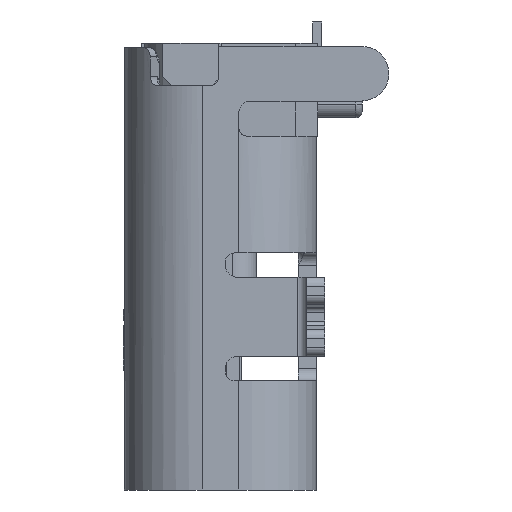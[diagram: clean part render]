
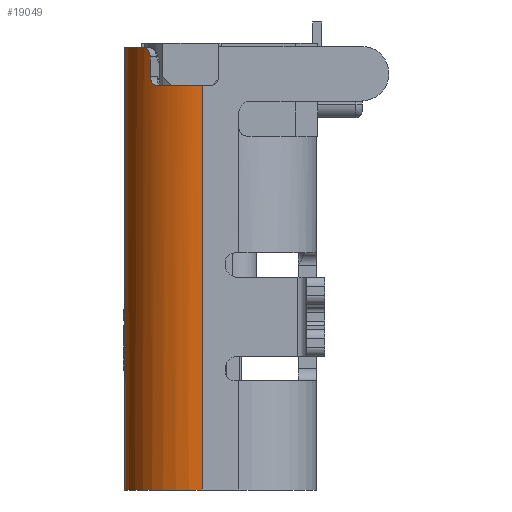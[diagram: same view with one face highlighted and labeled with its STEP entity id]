
A CAD part, left-side view. The second image highlights one B-rep face of the part: STEP entity #19049.
In plain terms, the highlighted cylindrical face has radius 1.28 mm (diameter 2.56 mm), a partial arc.
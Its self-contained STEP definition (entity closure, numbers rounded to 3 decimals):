
#4327=CARTESIAN_POINT('',(-3.19,0.295,-10.908));
#4328=DIRECTION('',(0.,0.,1.));
#4329=DIRECTION('',(0.,1.,0.));
#4330=AXIS2_PLACEMENT_3D('',#4327,#4328,#4329);
#4389=DIRECTION('',(0.,0.,-1.));
#4390=VECTOR('',#4389,7.275);
#4391=CARTESIAN_POINT('',(-3.19,1.575,
-3.633));
#4392=LINE('',#4391,#4390);
#4769=CARTESIAN_POINT('',(-3.19,0.295,-3.633));
#4770=DIRECTION('',(0.,0.,-1.));
#4771=DIRECTION('',(-0.657,0.754,0.));
#4772=AXIS2_PLACEMENT_3D('',#4769,#4770,#4771);
#4917=CARTESIAN_POINT('',(-4.031,1.26,
-3.633));
#4918=CARTESIAN_POINT('',(-4.045,1.248,
-3.633));
#4919=CARTESIAN_POINT('',(-4.07,1.224,
-3.639));
#4920=CARTESIAN_POINT('',(-4.101,1.195,
-3.66));
#4921=CARTESIAN_POINT('',(-4.125,1.169,
-3.694));
#4922=CARTESIAN_POINT('',(-4.14,1.153,
-3.738));
#4923=CARTESIAN_POINT('',(-4.143,1.15,
-3.767));
#4924=CARTESIAN_POINT('',(-4.143,1.15,
-3.783));
#4926=DIRECTION('',(0.,0.,-1.));
#4927=VECTOR('',#4926,0.325);
#4928=CARTESIAN_POINT('',(-4.143,1.15,
-3.783));
#4929=LINE('',#4928,#4927);
#4930=CARTESIAN_POINT('',(-4.143,1.15,
-4.108));
#4931=CARTESIAN_POINT('',(-4.143,1.15,
-4.123));
#4932=CARTESIAN_POINT('',(-4.145,1.147,
-4.152));
#4933=CARTESIAN_POINT('',(-4.16,1.13,
-4.197));
#4934=CARTESIAN_POINT('',(-4.182,1.104,
-4.23));
#4935=CARTESIAN_POINT('',(-4.209,1.07,
-4.253));
#4936=CARTESIAN_POINT('',(-4.228,1.045,
-4.258));
#4937=CARTESIAN_POINT('',(-4.237,1.031,
-4.258));
#4939=CARTESIAN_POINT('',(-3.19,0.295,-4.258));
#4940=DIRECTION('',(0.,0.,-1.));
#4941=DIRECTION('',(-0.98,0.197,0.));
#4942=AXIS2_PLACEMENT_3D('',#4939,#4940,#4941);
#4952=CARTESIAN_POINT('',(-3.19,0.295,-4.258));
#4953=DIRECTION('',(0.,0.,-1.));
#4954=DIRECTION('',(-0.921,0.391,0.));
#4955=AXIS2_PLACEMENT_3D('',#4952,#4953,#4954);
#5252=DIRECTION('',(0.,0.,1.));
#5253=VECTOR('',#5252,6.65);
#5254=CARTESIAN_POINT('',(-4.47,0.295,
-10.908));
#5255=LINE('',#5254,#5253);
#6447=CARTESIAN_POINT('',(-3.19,0.295,-4.258));
#6448=DIRECTION('',(0.,0.,-1.));
#6449=DIRECTION('',(-1.,0.,0.));
#6450=AXIS2_PLACEMENT_3D('',#6447,#6448,#6449);
#9771=CARTESIAN_POINT('',(-4.031,1.26,
-3.633));
#9773=VERTEX_POINT('',#9771);
#9774=CARTESIAN_POINT('',(-3.19,1.575,
-3.633));
#9775=VERTEX_POINT('',#9774);
#9781=CARTESIAN_POINT('',(-4.143,1.15,
-3.783));
#9783=VERTEX_POINT('',#9781);
#9796=CARTESIAN_POINT('',(-4.143,1.15,
-4.108));
#9797=VERTEX_POINT('',#9796);
#9799=CARTESIAN_POINT('',(-4.47,0.295,
-10.908));
#9800=CARTESIAN_POINT('',(-4.47,0.295,
-4.258));
#9801=VERTEX_POINT('',#9799);
#9802=VERTEX_POINT('',#9800);
#9803=CARTESIAN_POINT('',(-3.19,1.575,
-10.908));
#9804=VERTEX_POINT('',#9803);
#9805=VERTEX_POINT('',#4937);
#9806=CARTESIAN_POINT('',(-4.445,0.547,
-4.258));
#9807=CARTESIAN_POINT('',(-4.368,0.795,
-4.258));
#9808=VERTEX_POINT('',#9806);
#9809=VERTEX_POINT('',#9807);
#19028=CARTESIAN_POINT('',(-3.19,0.295,-3.487));
#19029=DIRECTION('',(0.,0.,-1.));
#19030=DIRECTION('',(-0.999,-0.051,0.));
#19031=AXIS2_PLACEMENT_3D('',#19028,#19029,#19030);
#19032=CYLINDRICAL_SURFACE('',#19031,1.28);
#19034=ORIENTED_EDGE('',*,*,#19033,.F.);
#19036=ORIENTED_EDGE('',*,*,#19035,.F.);
#19038=ORIENTED_EDGE('',*,*,#19037,.F.);
#19039=ORIENTED_EDGE('',*,*,#18410,.F.);
#19040=ORIENTED_EDGE('',*,*,#18458,.F.);
#19041=ORIENTED_EDGE('',*,*,#18849,.F.);
#19042=ORIENTED_EDGE('',*,*,#18870,.T.);
#19043=ORIENTED_EDGE('',*,*,#19004,.T.);
#19044=ORIENTED_EDGE('',*,*,#19017,.T.);
#19046=ORIENTED_EDGE('',*,*,#19045,.F.);
#19047=EDGE_LOOP('',(#19034,#19036,#19038,#19039,#19040,#19041,#19042,#19043,
#19044,#19046));
#19048=FACE_OUTER_BOUND('',#19047,.F.);
#4331=CIRCLE('',#4330,1.28);
#4773=CIRCLE('',#4772,1.28);
#4925=B_SPLINE_CURVE_WITH_KNOTS('',3,(#4917,#4918,#4919,#4920,#4921,#4922,#4923,
#4924),.UNSPECIFIED.,.F.,.F.,(4,1,1,1,1,4),(0.,0.2,0.4,0.6,0.8,1.),
.UNSPECIFIED.);
#4938=B_SPLINE_CURVE_WITH_KNOTS('',3,(#4930,#4931,#4932,#4933,#4934,#4935,#4936,
#4937),.UNSPECIFIED.,.F.,.F.,(4,1,1,1,1,4),(0.,0.2,0.4,0.6,0.8,1.),
.UNSPECIFIED.);
#4943=CIRCLE('',#4942,1.28);
#4956=CIRCLE('',#4955,1.28);
#6451=CIRCLE('',#6450,1.28);
#18410=EDGE_CURVE('',#9804,#9801,#4331,.T.);
#18458=EDGE_CURVE('',#9775,#9804,#4392,.T.);
#18849=EDGE_CURVE('',#9773,#9775,#4773,.T.);
#18870=EDGE_CURVE('',#9773,#9783,#4925,.T.);
#19004=EDGE_CURVE('',#9783,#9797,#4929,.T.);
#19017=EDGE_CURVE('',#9797,#9805,#4938,.T.);
#19033=EDGE_CURVE('',#9808,#9809,#4943,.T.);
#19035=EDGE_CURVE('',#9802,#9808,#6451,.T.);
#19037=EDGE_CURVE('',#9801,#9802,#5255,.T.);
#19045=EDGE_CURVE('',#9809,#9805,#4956,.T.);
#19049=ADVANCED_FACE('',(#19048),#19032,.T.);
